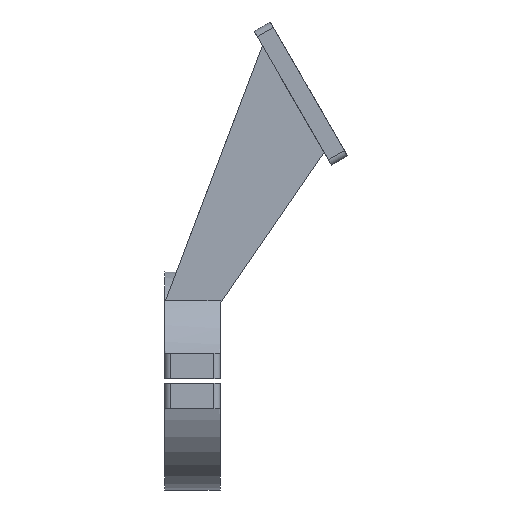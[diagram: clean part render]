
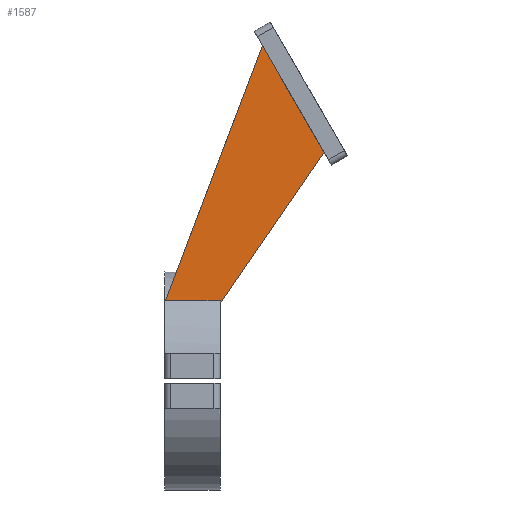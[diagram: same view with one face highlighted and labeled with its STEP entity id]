
A CAD part, front view. The second image highlights one B-rep face of the part: STEP entity #1587.
In plain terms, the highlighted planar face has unit normal (0, -1, 0).
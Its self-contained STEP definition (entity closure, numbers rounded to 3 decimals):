
#55 = CYLINDRICAL_SURFACE('',#56,35.3);
#56 = AXIS2_PLACEMENT_3D('',#57,#58,#59);
#57 = CARTESIAN_POINT('',(-54.,0.,0.));
#58 = DIRECTION('',(-1.,-0.,-0.));
#59 = DIRECTION('',(0.,1.,0.));
#329 = PLANE('',#330);
#330 = AXIS2_PLACEMENT_3D('',#331,#332,#333);
#331 = CARTESIAN_POINT('',(-36.,0.,0.)
  );
#332 = DIRECTION('',(1.,0.,0.));
#333 = DIRECTION('',(-0.,0.,1.));
#476 = VERTEX_POINT('',#477);
#477 = CARTESIAN_POINT('',(-53.663,-24.,25.886));
#495 = PLANE('',#496);
#496 = AXIS2_PLACEMENT_3D('',#497,#498,#499);
#497 = CARTESIAN_POINT('',(-22.048,-20.,109.071));
#498 = DIRECTION('',(0.935,0.,-0.355));
#499 = DIRECTION('',(-0.355,0.,-0.935));
#507 = EDGE_CURVE('',#508,#476,#510,.T.);
#508 = VERTEX_POINT('',#509);
#509 = CARTESIAN_POINT('',(-36.,-24.,25.886));
#510 = SURFACE_CURVE('',#511,(#515,#521),.PCURVE_S1.);
#511 = LINE('',#512,#513);
#512 = CARTESIAN_POINT('',(-54.,-24.,25.886));
#513 = VECTOR('',#514,1.);
#514 = DIRECTION('',(-1.,-0.,-0.));
#515 = PCURVE('',#55,#516);
#516 = DEFINITIONAL_REPRESENTATION('',(#517),#520);
#517 = B_SPLINE_CURVE_WITH_KNOTS('',1,(#518,#519),.UNSPECIFIED.,.F.,.F.,
  (2,2),(-18.,0.),.PIECEWISE_BEZIER_KNOTS.);
#518 = CARTESIAN_POINT('',(-2.318,-18.));
#519 = CARTESIAN_POINT('',(-2.318,0.));
#520 = ( GEOMETRIC_REPRESENTATION_CONTEXT(2) 
PARAMETRIC_REPRESENTATION_CONTEXT() REPRESENTATION_CONTEXT('2D SPACE',''
  ) );
#521 = PCURVE('',#522,#527);
#522 = PLANE('',#523);
#523 = AXIS2_PLACEMENT_3D('',#524,#525,#526);
#524 = CARTESIAN_POINT('',(-28.15,-24.,63.155));
#525 = DIRECTION('',(-0.,-1.,-0.));
#526 = DIRECTION('',(0.,0.,-1.));
#527 = DEFINITIONAL_REPRESENTATION('',(#528),#531);
#528 = B_SPLINE_CURVE_WITH_KNOTS('',1,(#529,#530),.UNSPECIFIED.,.F.,.F.,
  (2,2),(-18.,0.),.PIECEWISE_BEZIER_KNOTS.);
#529 = CARTESIAN_POINT('',(37.269,-7.85));
#530 = CARTESIAN_POINT('',(37.269,-25.85));
#531 = ( GEOMETRIC_REPRESENTATION_CONTEXT(2) 
PARAMETRIC_REPRESENTATION_CONTEXT() REPRESENTATION_CONTEXT('2D SPACE',''
  ) );
#1518 = VERTEX_POINT('',#1519);
#1519 = CARTESIAN_POINT('',(-36.,-24.,25.));
#1533 = PLANE('',#1534);
#1534 = AXIS2_PLACEMENT_3D('',#1535,#1536,#1537);
#1535 = CARTESIAN_POINT('',(-36.,-20.,25.));
#1536 = DIRECTION('',(-0.824,0.,0.566));
#1537 = DIRECTION('',(0.566,0.,0.824));
#1545 = EDGE_CURVE('',#508,#1518,#1546,.T.);
#1546 = SURFACE_CURVE('',#1547,(#1551,#1557),.PCURVE_S1.);
#1547 = LINE('',#1548,#1549);
#1548 = CARTESIAN_POINT('',(-36.,-24.,31.578));
#1549 = VECTOR('',#1550,1.);
#1550 = DIRECTION('',(0.,0.,-1.));
#1551 = PCURVE('',#329,#1552);
#1552 = DEFINITIONAL_REPRESENTATION('',(#1553),#1556);
#1553 = B_SPLINE_CURVE_WITH_KNOTS('',1,(#1554,#1555),.UNSPECIFIED.,.F.,
  .F.,(2,2),(-3.722,6.578),.PIECEWISE_BEZIER_KNOTS.);
#1554 = CARTESIAN_POINT('',(35.3,24.));
#1555 = CARTESIAN_POINT('',(25.,24.));
#1556 = ( GEOMETRIC_REPRESENTATION_CONTEXT(2) 
PARAMETRIC_REPRESENTATION_CONTEXT() REPRESENTATION_CONTEXT('2D SPACE',''
  ) );
#1557 = PCURVE('',#522,#1558);
#1558 = DEFINITIONAL_REPRESENTATION('',(#1559),#1562);
#1559 = B_SPLINE_CURVE_WITH_KNOTS('',1,(#1560,#1561),.UNSPECIFIED.,.F.,
  .F.,(2,2),(-3.722,6.578),.PIECEWISE_BEZIER_KNOTS.);
#1560 = CARTESIAN_POINT('',(27.855,-7.85));
#1561 = CARTESIAN_POINT('',(38.155,-7.85));
#1562 = ( GEOMETRIC_REPRESENTATION_CONTEXT(2) 
PARAMETRIC_REPRESENTATION_CONTEXT() REPRESENTATION_CONTEXT('2D SPACE',''
  ) );
#1587 = ADVANCED_FACE('',(#1588),#522,.T.);
#1588 = FACE_BOUND('',#1589,.T.);
#1589 = EDGE_LOOP('',(#1590,#1591,#1614,#1640,#1661));
#1590 = ORIENTED_EDGE('',*,*,#1545,.T.);
#1591 = ORIENTED_EDGE('',*,*,#1592,.T.);
#1592 = EDGE_CURVE('',#1518,#1593,#1595,.T.);
#1593 = VERTEX_POINT('',#1594);
#1594 = CARTESIAN_POINT('',(-2.361,-24.,73.973));
#1595 = SURFACE_CURVE('',#1596,(#1600,#1607),.PCURVE_S1.);
#1596 = LINE('',#1597,#1598);
#1597 = CARTESIAN_POINT('',(-36.,-24.,25.));
#1598 = VECTOR('',#1599,1.);
#1599 = DIRECTION('',(0.566,0.,0.824));
#1600 = PCURVE('',#522,#1601);
#1601 = DEFINITIONAL_REPRESENTATION('',(#1602),#1606);
#1602 = LINE('',#1603,#1604);
#1603 = CARTESIAN_POINT('',(38.155,-7.85));
#1604 = VECTOR('',#1605,1.);
#1605 = DIRECTION('',(-0.824,0.566));
#1606 = ( GEOMETRIC_REPRESENTATION_CONTEXT(2) 
PARAMETRIC_REPRESENTATION_CONTEXT() REPRESENTATION_CONTEXT('2D SPACE',''
  ) );
#1607 = PCURVE('',#1533,#1608);
#1608 = DEFINITIONAL_REPRESENTATION('',(#1609),#1613);
#1609 = LINE('',#1610,#1611);
#1610 = CARTESIAN_POINT('',(0.,-4.));
#1611 = VECTOR('',#1612,1.);
#1612 = DIRECTION('',(1.,0.));
#1613 = ( GEOMETRIC_REPRESENTATION_CONTEXT(2) 
PARAMETRIC_REPRESENTATION_CONTEXT() REPRESENTATION_CONTEXT('2D SPACE',''
  ) );
#1614 = ORIENTED_EDGE('',*,*,#1615,.F.);
#1615 = EDGE_CURVE('',#1616,#1593,#1618,.T.);
#1616 = VERTEX_POINT('',#1617);
#1617 = CARTESIAN_POINT('',(-22.277,-24.,108.467));
#1618 = SURFACE_CURVE('',#1619,(#1623,#1629),.PCURVE_S1.);
#1619 = LINE('',#1620,#1621);
#1620 = CARTESIAN_POINT('',(-14.553,-24.,95.088));
#1621 = VECTOR('',#1622,1.);
#1622 = DIRECTION('',(0.5,0.,-0.866));
#1623 = PCURVE('',#522,#1624);
#1624 = DEFINITIONAL_REPRESENTATION('',(#1625),#1628);
#1625 = B_SPLINE_CURVE_WITH_KNOTS('',1,(#1626,#1627),.UNSPECIFIED.,.F.,
  .F.,(2,2),(-16.145,25.01),.PIECEWISE_BEZIER_KNOTS.);
#1626 = CARTESIAN_POINT('',(-45.915,5.525));
#1627 = CARTESIAN_POINT('',(-10.274,26.102));
#1628 = ( GEOMETRIC_REPRESENTATION_CONTEXT(2) 
PARAMETRIC_REPRESENTATION_CONTEXT() REPRESENTATION_CONTEXT('2D SPACE',''
  ) );
#1629 = PCURVE('',#1630,#1635);
#1630 = PLANE('',#1631);
#1631 = AXIS2_PLACEMENT_3D('',#1632,#1633,#1634);
#1632 = CARTESIAN_POINT('',(-24.981,-27.,113.151));
#1633 = DIRECTION('',(0.866,0.,0.5));
#1634 = DIRECTION('',(0.5,0.,-0.866));
#1635 = DEFINITIONAL_REPRESENTATION('',(#1636),#1639);
#1636 = B_SPLINE_CURVE_WITH_KNOTS('',1,(#1637,#1638),.UNSPECIFIED.,.F.,
  .F.,(2,2),(-16.145,25.01),.PIECEWISE_BEZIER_KNOTS.);
#1637 = CARTESIAN_POINT('',(4.711,3.));
#1638 = CARTESIAN_POINT('',(45.866,3.));
#1639 = ( GEOMETRIC_REPRESENTATION_CONTEXT(2) 
PARAMETRIC_REPRESENTATION_CONTEXT() REPRESENTATION_CONTEXT('2D SPACE',''
  ) );
#1640 = ORIENTED_EDGE('',*,*,#1641,.T.);
#1641 = EDGE_CURVE('',#1616,#476,#1642,.T.);
#1642 = SURFACE_CURVE('',#1643,(#1647,#1654),.PCURVE_S1.);
#1643 = LINE('',#1644,#1645);
#1644 = CARTESIAN_POINT('',(-22.048,-24.,109.071));
#1645 = VECTOR('',#1646,1.);
#1646 = DIRECTION('',(-0.355,0.,-0.935));
#1647 = PCURVE('',#522,#1648);
#1648 = DEFINITIONAL_REPRESENTATION('',(#1649),#1653);
#1649 = LINE('',#1650,#1651);
#1650 = CARTESIAN_POINT('',(-45.915,6.102));
#1651 = VECTOR('',#1652,1.);
#1652 = DIRECTION('',(0.935,-0.355));
#1653 = ( GEOMETRIC_REPRESENTATION_CONTEXT(2) 
PARAMETRIC_REPRESENTATION_CONTEXT() REPRESENTATION_CONTEXT('2D SPACE',''
  ) );
#1654 = PCURVE('',#495,#1655);
#1655 = DEFINITIONAL_REPRESENTATION('',(#1656),#1660);
#1656 = LINE('',#1657,#1658);
#1657 = CARTESIAN_POINT('',(-0.,-4.));
#1658 = VECTOR('',#1659,1.);
#1659 = DIRECTION('',(1.,0.));
#1660 = ( GEOMETRIC_REPRESENTATION_CONTEXT(2) 
PARAMETRIC_REPRESENTATION_CONTEXT() REPRESENTATION_CONTEXT('2D SPACE',''
  ) );
#1661 = ORIENTED_EDGE('',*,*,#507,.F.);
